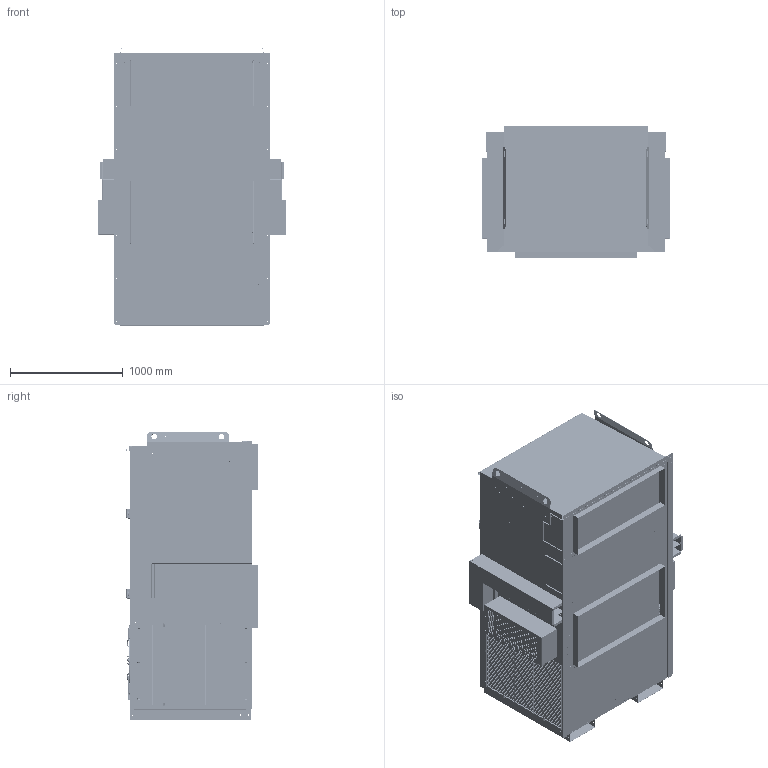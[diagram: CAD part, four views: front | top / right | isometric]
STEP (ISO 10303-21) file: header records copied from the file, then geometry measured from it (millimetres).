
FILE_DESCRIPTION (( 'STEP AP214' ), '1' );
FILE_NAME ('CFA 120-150 WIRE CHASE.STEP', '2021-07-07T20:21:29', ( '' ), ( '' ), 'SwSTEP 2.0', 'SolidWorks 2020', '' );
FILE_SCHEMA (( 'AUTOMOTIVE_DESIGN' ));
Length unit declared in the file: inch
Products named in the file (61): SML16033X; ECONO HOOD ASSY LARGE; MD09173; MD13589; MD09145; SML16031X; MB09352; MD09631; SML16038X; MD13586; SML16030X; 127010502; PD81397; MD11715; MD13587_MD13586; 60305; 30178; 92417; MD11715_MD11715; 81397 PART 3; 92526; MD09614; SML16039X; MD09146; 901442; MD09389; MD09378; SML16034X; SML16037X; MD13588; MD09633; SML16036X; MD13590_MD13586; ND04668; 60303; 901442 RH BOTTOM; MD09132; supply retrun block off^ECUA 120; MD09219; MD09683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
Assembly tree (81 placements, depth 3):
  CFA 120-150 WIRE CHASE
    MD09131
    MD09132  x3
    MD09144
    MD09145
    MD09156
    MD09146
    MD09157
    MD09172
    MD09173  x2
    MD09175  x2
    MD09219
    MB09352
    MD11715_MD11715  x2
      MD11715
    30178
    60303
      127010502
    60305
      127009903
    PD81397  x2
      81397 PART 2
      81397 PART 3
      PD81397
    92417  x4
    901442  x2
      901442 RH BOTTOM
      901442 RH TOP
    MD09613
    MD09614
    ECONO HOOD ASSY LARGE  x2
      MD09633
      MD09634
      MD09631
      MD09632
      MD09683
      92526
    MD09378
    MD09389
    MD13586_MD13586-IN
      MD13586
      ND04668
    MD13587_MD13586
      MD13587
    MD13588
    MD13589_MD13586
      MD13589
    MD13590_MD13586
      MD13590
    supply retrun block off^ECUA 120
    SML16030X
    SML16031X
    SML16032X
    SML16033X
    SML16034X  x2
    SML16035X
    SML16039X
    SML16038X
    SML16037X
    SML16036X
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Bounding box: 1671.07 x 1169.18 x 2554.3 mm (x, y, z)
Volume: 2253581264.7 mm3; surface area: 74479425.9 mm2
Topology: 505 solids, 581 shells, 23328 faces, 62229 edges, 39323 vertices
Faces by surface type: cylinder 8651, plane 5948, bspline 5663, cone 2376, torus 578, sphere 112
Entity records: 691168 total; most frequent: CARTESIAN_POINT 209702, DIRECTION 74701, ORIENTED_EDGE 73343, EDGE_CURVE 37738, AXIS2_PLACEMENT_3D 29727, VERTEX_POINT 23571, EDGE_LOOP 19138, CIRCLE 17023
